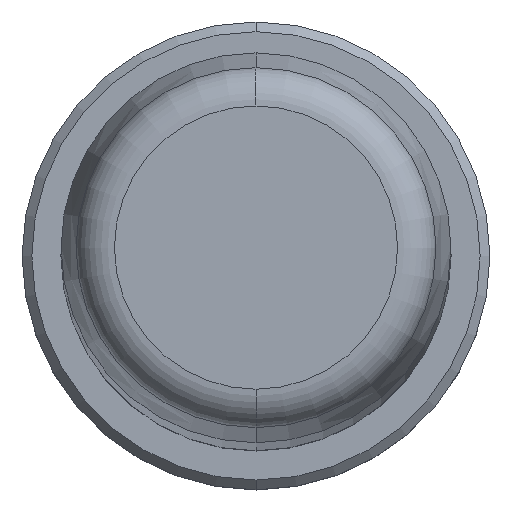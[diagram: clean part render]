
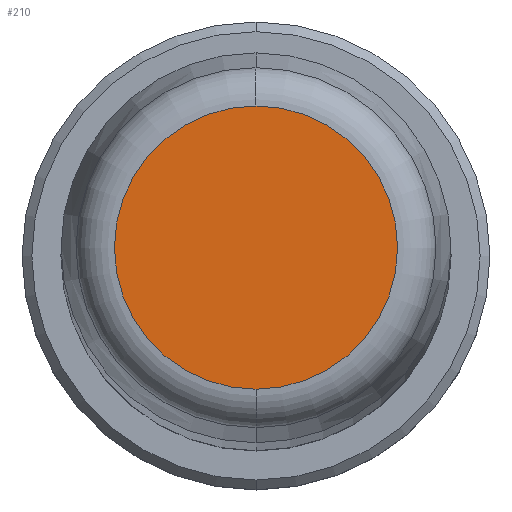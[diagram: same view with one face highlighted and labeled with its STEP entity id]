
A CAD part, top view. The second image highlights one B-rep face of the part: STEP entity #210.
In plain terms, the highlighted planar face has unit normal (0, 0, 1).
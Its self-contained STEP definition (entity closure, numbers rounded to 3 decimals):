
#1=CARTESIAN_POINT('',(0.,0.,250.));
#2=DIRECTION('',(0.,0.,-1.));
#3=DIRECTION('',(0.,-1.,0.));
#4=AXIS2_PLACEMENT_3D('',#1,#2,#3);
#6=CARTESIAN_POINT('',(0.,0.,250.));
#7=DIRECTION('',(0.,0.,-1.));
#8=DIRECTION('',(0.,1.,0.));
#9=AXIS2_PLACEMENT_3D('',#6,#7,#8);
#183=CARTESIAN_POINT('',(0.,-7.264,250.));
#184=CARTESIAN_POINT('',(0.,7.264,250.));
#185=VERTEX_POINT('',#183);
#186=VERTEX_POINT('',#184);
#199=CARTESIAN_POINT('',(0.,0.,250.));
#200=DIRECTION('',(0.,0.,1.));
#201=DIRECTION('',(0.,-1.,0.));
#202=AXIS2_PLACEMENT_3D('',#199,#200,#201);
#203=PLANE('',#202);
#205=ORIENTED_EDGE('',*,*,#204,.T.);
#207=ORIENTED_EDGE('',*,*,#206,.T.);
#208=EDGE_LOOP('',(#205,#207));
#209=FACE_OUTER_BOUND('',#208,.F.);
#210=ADVANCED_FACE('',(#209),#203,.T.);
#5=CIRCLE('',#4,7.264);
#10=CIRCLE('',#9,7.264);
#204=EDGE_CURVE('',#185,#186,#5,.T.);
#206=EDGE_CURVE('',#186,#185,#10,.T.);
